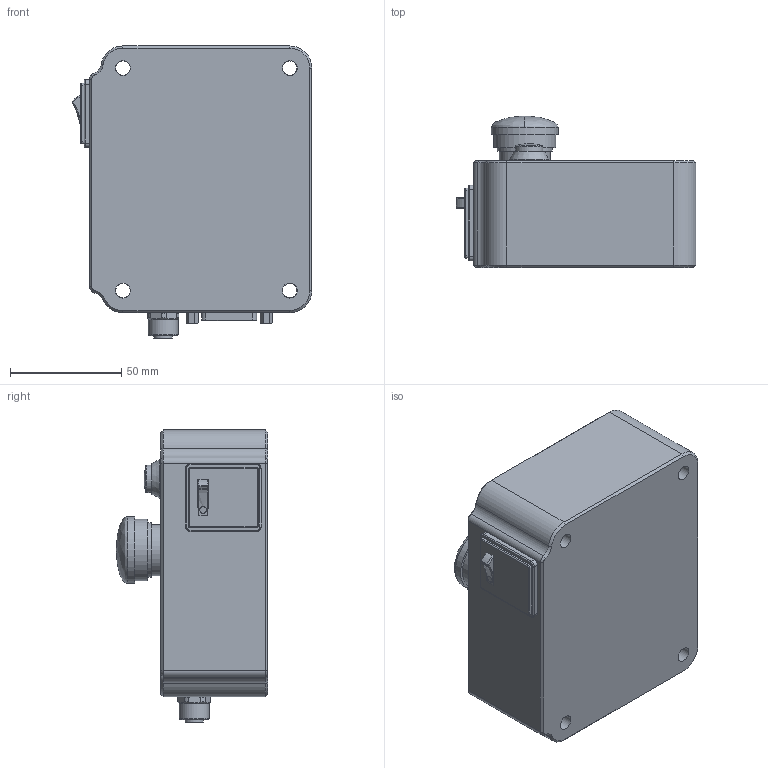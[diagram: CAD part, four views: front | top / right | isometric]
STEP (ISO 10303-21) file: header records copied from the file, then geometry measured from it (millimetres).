
FILE_DESCRIPTION(/* description */ (''),/* implementation_level */ '2;1');
FILE_NAME(/* name */ 'C:\SVN\Mechanical\Meca500\Meca500 Step files\Power supply simple.stp',/* time_stamp */ '2018-03-09T15:02:26-05:00',/* author */ ('Jonathan'),/* organization */ (''),/* preprocessor_version */ 'ST-DEVELOPER v16.13',/* originating_system */ 'Autodesk Inventor 2018',/* authorisation */ '');
FILE_SCHEMA (('AUTOMOTIVE_DESIGN { 1 0 10303 214 3 1 1 }'));
Length unit declared in the file: metre
Products named in the file (1): Power supply simple
Bounding box: 107.89 x 68 x 131.37 mm (x, y, z)
Volume: 576716.4 mm3; surface area: 51535.4 mm2
Topology: 1 solids, 5 shells, 365 faces, 829 edges, 523 vertices
Faces by surface type: plane 152, cylinder 99, cone 55, bspline 35, torus 19, sphere 5
Full cylindrical faces by diameter (mm): 1.143 x15, 2 x5, 2.845 x2, 3.002 x1, 3.175 x2, 6.5 x4, 6.7 x4, 8.2 x1, 11 x4, 12.35 x1, 13.5 x2, 13.6 x1, 13.8 x1, 17.4 x1, 23 x1, 24.6 x1, 27.8 x1, 30 x1, 44 x1
Entity records: 14271 total; most frequent: CARTESIAN_POINT 6187, DIRECTION 1540, ORIENTED_EDGE 1500, EDGE_CURVE 750, AXIS2_PLACEMENT_3D 606, VERTEX_POINT 507, EDGE_LOOP 487, FACE_OUTER_BOUND 363
